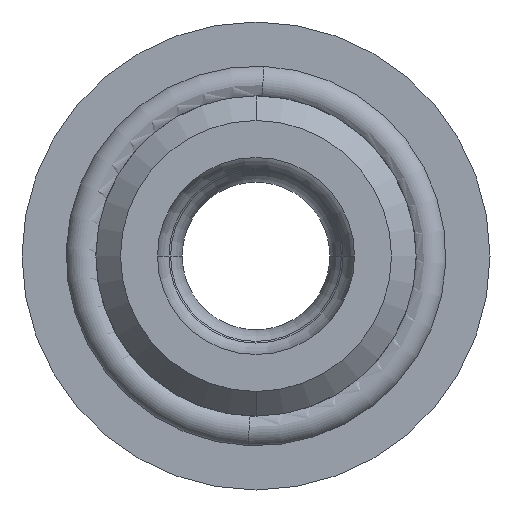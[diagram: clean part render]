
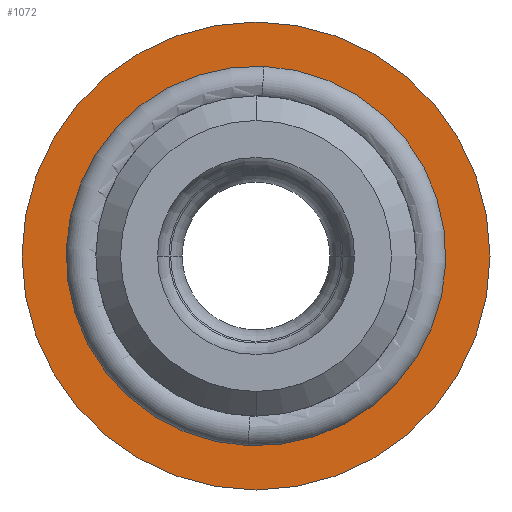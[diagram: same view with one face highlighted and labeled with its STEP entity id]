
A CAD part, front view. The second image highlights one B-rep face of the part: STEP entity #1072.
In plain terms, the highlighted planar face has unit normal (0, -1, 0).
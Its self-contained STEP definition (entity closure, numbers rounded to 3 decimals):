
#46 = CIRCLE ( 'NONE', #1368, 9.5 ) ;
#91 = AXIS2_PLACEMENT_3D ( 'NONE', #1332, #2035, #493 ) ;
#286 = EDGE_LOOP ( 'NONE', ( #1446, #554 ) ) ;
#493 = DIRECTION ( 'NONE',  ( 0., 0., -1. ) ) ;
#496 = CARTESIAN_POINT ( 'NONE',  ( 0., 7., 9.5 ) ) ;
#554 = ORIENTED_EDGE ( 'NONE', *, *, #850, .T. ) ;
#561 = DIRECTION ( 'NONE',  ( 0., 0., -1. ) ) ;
#599 = CIRCLE ( 'NONE', #91, 7.707 ) ;
#613 = CARTESIAN_POINT ( 'NONE',  ( -0.307, 7., -7.701 ) ) ;
#617 = CARTESIAN_POINT ( 'NONE',  ( 6.5, 7., 0. ) ) ;
#794 = CARTESIAN_POINT ( 'NONE',  ( 0., 7., 0. ) ) ;
#850 = EDGE_CURVE ( 'NONE', #2043, #1784, #46, .T. ) ;
#934 = VERTEX_POINT ( 'NONE', #613 ) ;
#948 = CIRCLE ( 'NONE', #1196, 7.707 ) ;
#980 = FACE_OUTER_BOUND ( 'NONE', #286, .T. ) ;
#994 = DIRECTION ( 'NONE',  ( 0., 0., -1. ) ) ;
#1072 = ADVANCED_FACE ( 'NONE', ( #2020, #980 ), #1991, .T. ) ;
#1134 = ORIENTED_EDGE ( 'NONE', *, *, #1194, .F. ) ;
#1150 = DIRECTION ( 'NONE',  ( 0., -1., 0. ) ) ;
#1177 = EDGE_CURVE ( 'NONE', #934, #1369, #599, .T. ) ;
#1194 = EDGE_CURVE ( 'NONE', #1369, #934, #948, .T. ) ;
#1196 = AXIS2_PLACEMENT_3D ( 'NONE', #1716, #1962, #561 ) ;
#1245 = DIRECTION ( 'NONE',  ( 0., 0., -1. ) ) ;
#1332 = CARTESIAN_POINT ( 'NONE',  ( 0., 7., 0. ) ) ;
#1351 = EDGE_CURVE ( 'NONE', #1784, #2043, #2144, .T. ) ;
#1368 = AXIS2_PLACEMENT_3D ( 'NONE', #794, #1150, #2215 ) ;
#1369 = VERTEX_POINT ( 'NONE', #2157 ) ;
#1439 = DIRECTION ( 'NONE',  ( 0., -1., 0. ) ) ;
#1446 = ORIENTED_EDGE ( 'NONE', *, *, #1351, .T. ) ;
#1503 = EDGE_LOOP ( 'NONE', ( #2053, #1134 ) ) ;
#1548 = AXIS2_PLACEMENT_3D ( 'NONE', #617, #1439, #994 ) ;
#1716 = CARTESIAN_POINT ( 'NONE',  ( 0., 7., 0. ) ) ;
#1784 = VERTEX_POINT ( 'NONE', #2106 ) ;
#1910 = CARTESIAN_POINT ( 'NONE',  ( 0., 7., 0. ) ) ;
#1962 = DIRECTION ( 'NONE',  ( 0., -1., 0. ) ) ;
#1991 = PLANE ( 'NONE',  #1548 ) ;
#2008 = AXIS2_PLACEMENT_3D ( 'NONE', #1910, #2089, #1245 ) ;
#2020 = FACE_BOUND ( 'NONE', #1503, .T. ) ;
#2035 = DIRECTION ( 'NONE',  ( 0., -1., 0. ) ) ;
#2043 = VERTEX_POINT ( 'NONE', #496 ) ;
#2053 = ORIENTED_EDGE ( 'NONE', *, *, #1177, .F. ) ;
#2089 = DIRECTION ( 'NONE',  ( 0., -1., 0. ) ) ;
#2106 = CARTESIAN_POINT ( 'NONE',  ( 0., 7., -9.5 ) ) ;
#2144 = CIRCLE ( 'NONE', #2008, 9.5 ) ;
#2157 = CARTESIAN_POINT ( 'NONE',  ( 0.307, 7., 7.701 ) ) ;
#2215 = DIRECTION ( 'NONE',  ( 0., 0., -1. ) ) ;
